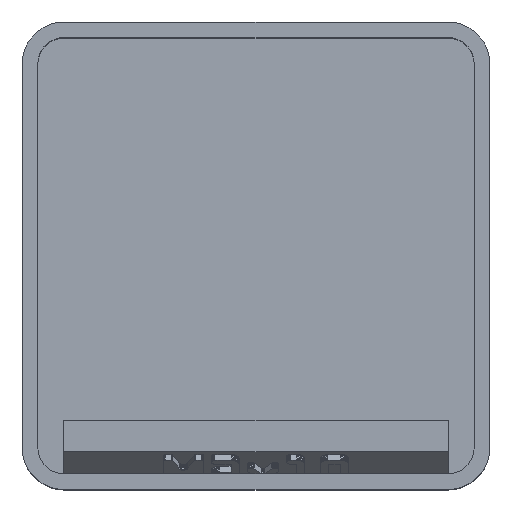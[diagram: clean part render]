
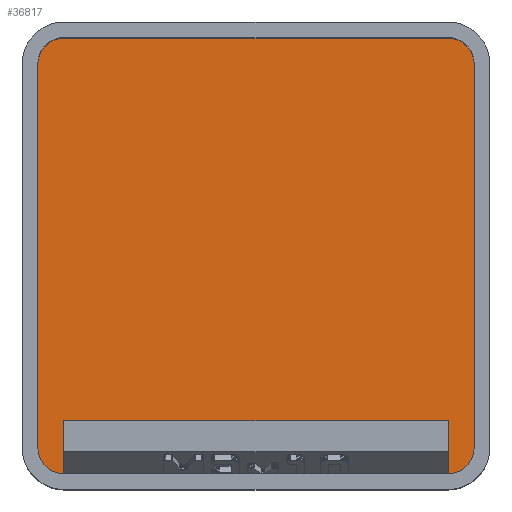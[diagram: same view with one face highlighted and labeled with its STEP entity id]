
A CAD part, top view. The second image highlights one B-rep face of the part: STEP entity #36817.
In plain terms, the highlighted planar face has unit normal (0, 0, 1).
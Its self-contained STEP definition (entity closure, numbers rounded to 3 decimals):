
#912 = PLANE('',#913);
#913 = AXIS2_PLACEMENT_3D('',#914,#915,#916);
#914 = CARTESIAN_POINT('',(-19.6,0.,30.));
#915 = DIRECTION('',(-1.,0.,0.));
#916 = DIRECTION('',(-0.,-1.,-0.));
#940 = CYLINDRICAL_SURFACE('',#941,2.35);
#941 = AXIS2_PLACEMENT_3D('',#942,#943,#944);
#942 = CARTESIAN_POINT('',(-17.25,17.25,5.95));
#943 = DIRECTION('',(-0.,-0.,1.));
#944 = DIRECTION('',(-1.,0.,0.));
#967 = PLANE('',#968);
#968 = AXIS2_PLACEMENT_3D('',#969,#970,#971);
#969 = CARTESIAN_POINT('',(0.,19.6,30.));
#970 = DIRECTION('',(0.,1.,0.));
#971 = DIRECTION('',(-1.,0.,0.));
#995 = CYLINDRICAL_SURFACE('',#996,2.35);
#996 = AXIS2_PLACEMENT_3D('',#997,#998,#999);
#997 = CARTESIAN_POINT('',(17.25,17.25,5.95));
#998 = DIRECTION('',(-0.,-0.,1.));
#999 = DIRECTION('',(-1.,0.,0.));
#1022 = PLANE('',#1023);
#1023 = AXIS2_PLACEMENT_3D('',#1024,#1025,#1026);
#1024 = CARTESIAN_POINT('',(19.6,0.,30.));
#1025 = DIRECTION('',(1.,0.,0.));
#1026 = DIRECTION('',(-0.,1.,0.));
#1050 = CYLINDRICAL_SURFACE('',#1051,2.35);
#1051 = AXIS2_PLACEMENT_3D('',#1052,#1053,#1054);
#1052 = CARTESIAN_POINT('',(17.25,-17.25,5.95));
#1053 = DIRECTION('',(-0.,-0.,1.));
#1054 = DIRECTION('',(-1.,0.,0.));
#1103 = CYLINDRICAL_SURFACE('',#1104,2.35);
#1104 = AXIS2_PLACEMENT_3D('',#1105,#1106,#1107);
#1105 = CARTESIAN_POINT('',(-17.25,-17.25,5.95));
#1106 = DIRECTION('',(-0.,-0.,1.));
#1107 = DIRECTION('',(-1.,0.,0.));
#13731 = EDGE_CURVE('',#13732,#13734,#13736,.T.);
#13732 = VERTEX_POINT('',#13733);
#13733 = CARTESIAN_POINT('',(-19.6,-17.25,5.95));
#13734 = VERTEX_POINT('',#13735);
#13735 = CARTESIAN_POINT('',(-19.6,17.25,5.95));
#13736 = SURFACE_CURVE('',#13737,(#13741,#13748),.PCURVE_S1.);
#13737 = LINE('',#13738,#13739);
#13738 = CARTESIAN_POINT('',(-19.6,0.,5.95));
#13739 = VECTOR('',#13740,1.);
#13740 = DIRECTION('',(0.,1.,0.));
#13741 = PCURVE('',#912,#13742);
#13742 = DEFINITIONAL_REPRESENTATION('',(#13743),#13747);
#13743 = LINE('',#13744,#13745);
#13744 = CARTESIAN_POINT('',(0.,-24.05));
#13745 = VECTOR('',#13746,1.);
#13746 = DIRECTION('',(-1.,0.));
#13747 = ( GEOMETRIC_REPRESENTATION_CONTEXT(2) 
PARAMETRIC_REPRESENTATION_CONTEXT() REPRESENTATION_CONTEXT('2D SPACE',''
  ) );
#13748 = PCURVE('',#13749,#13754);
#13749 = PLANE('',#13750);
#13750 = AXIS2_PLACEMENT_3D('',#13751,#13752,#13753);
#13751 = CARTESIAN_POINT('',(-17.25,-17.25,5.95));
#13752 = DIRECTION('',(0.,0.,-1.));
#13753 = DIRECTION('',(-1.,0.,0.));
#13754 = DEFINITIONAL_REPRESENTATION('',(#13755),#13759);
#13755 = LINE('',#13756,#13757);
#13756 = CARTESIAN_POINT('',(2.35,17.25));
#13757 = VECTOR('',#13758,1.);
#13758 = DIRECTION('',(0.,1.));
#13759 = ( GEOMETRIC_REPRESENTATION_CONTEXT(2) 
PARAMETRIC_REPRESENTATION_CONTEXT() REPRESENTATION_CONTEXT('2D SPACE',''
  ) );
#13806 = EDGE_CURVE('',#13807,#13732,#13809,.T.);
#13807 = VERTEX_POINT('',#13808);
#13808 = CARTESIAN_POINT('',(-17.25,-19.6,5.95));
#13809 = SURFACE_CURVE('',#13810,(#13815,#13822),.PCURVE_S1.);
#13810 = CIRCLE('',#13811,2.35);
#13811 = AXIS2_PLACEMENT_3D('',#13812,#13813,#13814);
#13812 = CARTESIAN_POINT('',(-17.25,-17.25,5.95));
#13813 = DIRECTION('',(0.,0.,-1.));
#13814 = DIRECTION('',(-1.,0.,0.));
#13815 = PCURVE('',#1103,#13816);
#13816 = DEFINITIONAL_REPRESENTATION('',(#13817),#13821);
#13817 = LINE('',#13818,#13819);
#13818 = CARTESIAN_POINT('',(6.283,0.));
#13819 = VECTOR('',#13820,1.);
#13820 = DIRECTION('',(-1.,0.));
#13821 = ( GEOMETRIC_REPRESENTATION_CONTEXT(2) 
PARAMETRIC_REPRESENTATION_CONTEXT() REPRESENTATION_CONTEXT('2D SPACE',''
  ) );
#13822 = PCURVE('',#13749,#13823);
#13823 = DEFINITIONAL_REPRESENTATION('',(#13824),#13828);
#13824 = CIRCLE('',#13825,2.35);
#13825 = AXIS2_PLACEMENT_2D('',#13826,#13827);
#13826 = CARTESIAN_POINT('',(0.,0.));
#13827 = DIRECTION('',(1.,0.));
#13828 = ( GEOMETRIC_REPRESENTATION_CONTEXT(2) 
PARAMETRIC_REPRESENTATION_CONTEXT() REPRESENTATION_CONTEXT('2D SPACE',''
  ) );
#13846 = PLANE('',#13847);
#13847 = AXIS2_PLACEMENT_3D('',#13848,#13849,#13850);
#13848 = CARTESIAN_POINT('',(0.,-19.6,30.));
#13849 = DIRECTION('',(0.,-1.,0.));
#13850 = DIRECTION('',(1.,0.,0.));
#13933 = EDGE_CURVE('',#13934,#13936,#13938,.T.);
#13934 = VERTEX_POINT('',#13935);
#13935 = CARTESIAN_POINT('',(19.6,-17.25,5.95));
#13936 = VERTEX_POINT('',#13937);
#13937 = CARTESIAN_POINT('',(17.25,-19.6,5.95));
#13938 = SURFACE_CURVE('',#13939,(#13944,#13951),.PCURVE_S1.);
#13939 = CIRCLE('',#13940,2.35);
#13940 = AXIS2_PLACEMENT_3D('',#13941,#13942,#13943);
#13941 = CARTESIAN_POINT('',(17.25,-17.25,5.95));
#13942 = DIRECTION('',(0.,0.,-1.));
#13943 = DIRECTION('',(-1.,0.,0.));
#13944 = PCURVE('',#1050,#13945);
#13945 = DEFINITIONAL_REPRESENTATION('',(#13946),#13950);
#13946 = LINE('',#13947,#13948);
#13947 = CARTESIAN_POINT('',(6.283,0.));
#13948 = VECTOR('',#13949,1.);
#13949 = DIRECTION('',(-1.,0.));
#13950 = ( GEOMETRIC_REPRESENTATION_CONTEXT(2) 
PARAMETRIC_REPRESENTATION_CONTEXT() REPRESENTATION_CONTEXT('2D SPACE',''
  ) );
#13951 = PCURVE('',#13749,#13952);
#13952 = DEFINITIONAL_REPRESENTATION('',(#13953),#13957);
#13953 = CIRCLE('',#13954,2.35);
#13954 = AXIS2_PLACEMENT_2D('',#13955,#13956);
#13955 = CARTESIAN_POINT('',(-34.5,0.));
#13956 = DIRECTION('',(1.,0.));
#13957 = ( GEOMETRIC_REPRESENTATION_CONTEXT(2) 
PARAMETRIC_REPRESENTATION_CONTEXT() REPRESENTATION_CONTEXT('2D SPACE',''
  ) );
#14031 = EDGE_CURVE('',#13934,#14032,#14034,.T.);
#14032 = VERTEX_POINT('',#14033);
#14033 = CARTESIAN_POINT('',(19.6,17.25,5.95));
#14034 = SURFACE_CURVE('',#14035,(#14039,#14046),.PCURVE_S1.);
#14035 = LINE('',#14036,#14037);
#14036 = CARTESIAN_POINT('',(19.6,0.,5.95));
#14037 = VECTOR('',#14038,1.);
#14038 = DIRECTION('',(0.,1.,0.));
#14039 = PCURVE('',#1022,#14040);
#14040 = DEFINITIONAL_REPRESENTATION('',(#14041),#14045);
#14041 = LINE('',#14042,#14043);
#14042 = CARTESIAN_POINT('',(0.,-24.05));
#14043 = VECTOR('',#14044,1.);
#14044 = DIRECTION('',(1.,0.));
#14045 = ( GEOMETRIC_REPRESENTATION_CONTEXT(2) 
PARAMETRIC_REPRESENTATION_CONTEXT() REPRESENTATION_CONTEXT('2D SPACE',''
  ) );
#14046 = PCURVE('',#13749,#14047);
#14047 = DEFINITIONAL_REPRESENTATION('',(#14048),#14052);
#14048 = LINE('',#14049,#14050);
#14049 = CARTESIAN_POINT('',(-36.85,17.25));
#14050 = VECTOR('',#14051,1.);
#14051 = DIRECTION('',(0.,1.));
#14052 = ( GEOMETRIC_REPRESENTATION_CONTEXT(2) 
PARAMETRIC_REPRESENTATION_CONTEXT() REPRESENTATION_CONTEXT('2D SPACE',''
  ) );
#14079 = EDGE_CURVE('',#14080,#14032,#14082,.T.);
#14080 = VERTEX_POINT('',#14081);
#14081 = CARTESIAN_POINT('',(17.25,19.6,5.95));
#14082 = SURFACE_CURVE('',#14083,(#14088,#14095),.PCURVE_S1.);
#14083 = CIRCLE('',#14084,2.35);
#14084 = AXIS2_PLACEMENT_3D('',#14085,#14086,#14087);
#14085 = CARTESIAN_POINT('',(17.25,17.25,5.95));
#14086 = DIRECTION('',(0.,0.,-1.));
#14087 = DIRECTION('',(-1.,0.,0.));
#14088 = PCURVE('',#995,#14089);
#14089 = DEFINITIONAL_REPRESENTATION('',(#14090),#14094);
#14090 = LINE('',#14091,#14092);
#14091 = CARTESIAN_POINT('',(6.283,0.));
#14092 = VECTOR('',#14093,1.);
#14093 = DIRECTION('',(-1.,0.));
#14094 = ( GEOMETRIC_REPRESENTATION_CONTEXT(2) 
PARAMETRIC_REPRESENTATION_CONTEXT() REPRESENTATION_CONTEXT('2D SPACE',''
  ) );
#14095 = PCURVE('',#13749,#14096);
#14096 = DEFINITIONAL_REPRESENTATION('',(#14097),#14101);
#14097 = CIRCLE('',#14098,2.35);
#14098 = AXIS2_PLACEMENT_2D('',#14099,#14100);
#14099 = CARTESIAN_POINT('',(-34.5,34.5));
#14100 = DIRECTION('',(1.,0.));
#14101 = ( GEOMETRIC_REPRESENTATION_CONTEXT(2) 
PARAMETRIC_REPRESENTATION_CONTEXT() REPRESENTATION_CONTEXT('2D SPACE',''
  ) );
#14129 = EDGE_CURVE('',#14130,#14080,#14132,.T.);
#14130 = VERTEX_POINT('',#14131);
#14131 = CARTESIAN_POINT('',(-17.25,19.6,5.95));
#14132 = SURFACE_CURVE('',#14133,(#14137,#14144),.PCURVE_S1.);
#14133 = LINE('',#14134,#14135);
#14134 = CARTESIAN_POINT('',(0.,19.6,5.95));
#14135 = VECTOR('',#14136,1.);
#14136 = DIRECTION('',(1.,0.,0.));
#14137 = PCURVE('',#967,#14138);
#14138 = DEFINITIONAL_REPRESENTATION('',(#14139),#14143);
#14139 = LINE('',#14140,#14141);
#14140 = CARTESIAN_POINT('',(0.,-24.05));
#14141 = VECTOR('',#14142,1.);
#14142 = DIRECTION('',(-1.,0.));
#14143 = ( GEOMETRIC_REPRESENTATION_CONTEXT(2) 
PARAMETRIC_REPRESENTATION_CONTEXT() REPRESENTATION_CONTEXT('2D SPACE',''
  ) );
#14144 = PCURVE('',#13749,#14145);
#14145 = DEFINITIONAL_REPRESENTATION('',(#14146),#14150);
#14146 = LINE('',#14147,#14148);
#14147 = CARTESIAN_POINT('',(-17.25,36.85));
#14148 = VECTOR('',#14149,1.);
#14149 = DIRECTION('',(-1.,0.));
#14150 = ( GEOMETRIC_REPRESENTATION_CONTEXT(2) 
PARAMETRIC_REPRESENTATION_CONTEXT() REPRESENTATION_CONTEXT('2D SPACE',''
  ) );
#14178 = EDGE_CURVE('',#13734,#14130,#14179,.T.);
#14179 = SURFACE_CURVE('',#14180,(#14185,#14192),.PCURVE_S1.);
#14180 = CIRCLE('',#14181,2.35);
#14181 = AXIS2_PLACEMENT_3D('',#14182,#14183,#14184);
#14182 = CARTESIAN_POINT('',(-17.25,17.25,5.95));
#14183 = DIRECTION('',(0.,0.,-1.));
#14184 = DIRECTION('',(-1.,0.,0.));
#14185 = PCURVE('',#940,#14186);
#14186 = DEFINITIONAL_REPRESENTATION('',(#14187),#14191);
#14187 = LINE('',#14188,#14189);
#14188 = CARTESIAN_POINT('',(6.283,0.));
#14189 = VECTOR('',#14190,1.);
#14190 = DIRECTION('',(-1.,0.));
#14191 = ( GEOMETRIC_REPRESENTATION_CONTEXT(2) 
PARAMETRIC_REPRESENTATION_CONTEXT() REPRESENTATION_CONTEXT('2D SPACE',''
  ) );
#14192 = PCURVE('',#13749,#14193);
#14193 = DEFINITIONAL_REPRESENTATION('',(#14194),#14198);
#14194 = CIRCLE('',#14195,2.35);
#14195 = AXIS2_PLACEMENT_2D('',#14196,#14197);
#14196 = CARTESIAN_POINT('',(0.,34.5));
#14197 = DIRECTION('',(1.,0.));
#14198 = ( GEOMETRIC_REPRESENTATION_CONTEXT(2) 
PARAMETRIC_REPRESENTATION_CONTEXT() REPRESENTATION_CONTEXT('2D SPACE',''
  ) );
#36817 = ADVANCED_FACE('',(#36818),#13749,.F.);
#36818 = FACE_BOUND('',#36819,.T.);
#36819 = EDGE_LOOP('',(#36820,#36821,#36822,#36843,#36844,#36845,#36846,
    #36847));
#36820 = ORIENTED_EDGE('',*,*,#13731,.F.);
#36821 = ORIENTED_EDGE('',*,*,#13806,.F.);
#36822 = ORIENTED_EDGE('',*,*,#36823,.T.);
#36823 = EDGE_CURVE('',#13807,#13936,#36824,.T.);
#36824 = SURFACE_CURVE('',#36825,(#36829,#36836),.PCURVE_S1.);
#36825 = LINE('',#36826,#36827);
#36826 = CARTESIAN_POINT('',(0.,-19.6,5.95));
#36827 = VECTOR('',#36828,1.);
#36828 = DIRECTION('',(1.,0.,0.));
#36829 = PCURVE('',#13749,#36830);
#36830 = DEFINITIONAL_REPRESENTATION('',(#36831),#36835);
#36831 = LINE('',#36832,#36833);
#36832 = CARTESIAN_POINT('',(-17.25,-2.35));
#36833 = VECTOR('',#36834,1.);
#36834 = DIRECTION('',(-1.,0.));
#36835 = ( GEOMETRIC_REPRESENTATION_CONTEXT(2) 
PARAMETRIC_REPRESENTATION_CONTEXT() REPRESENTATION_CONTEXT('2D SPACE',''
  ) );
#36836 = PCURVE('',#13846,#36837);
#36837 = DEFINITIONAL_REPRESENTATION('',(#36838),#36842);
#36838 = LINE('',#36839,#36840);
#36839 = CARTESIAN_POINT('',(0.,-24.05));
#36840 = VECTOR('',#36841,1.);
#36841 = DIRECTION('',(1.,0.));
#36842 = ( GEOMETRIC_REPRESENTATION_CONTEXT(2) 
PARAMETRIC_REPRESENTATION_CONTEXT() REPRESENTATION_CONTEXT('2D SPACE',''
  ) );
#36843 = ORIENTED_EDGE('',*,*,#13933,.F.);
#36844 = ORIENTED_EDGE('',*,*,#14031,.T.);
#36845 = ORIENTED_EDGE('',*,*,#14079,.F.);
#36846 = ORIENTED_EDGE('',*,*,#14129,.F.);
#36847 = ORIENTED_EDGE('',*,*,#14178,.F.);
